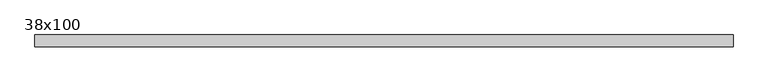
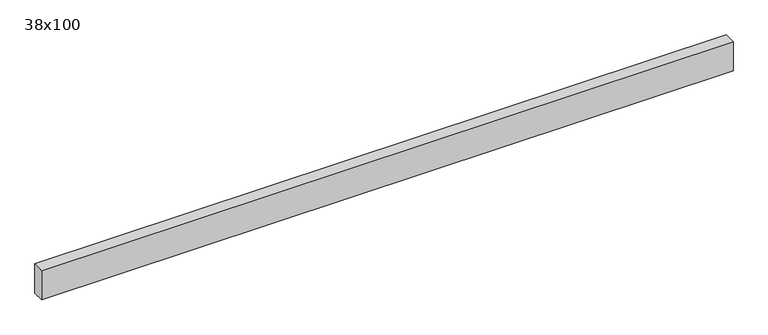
"""IFC4 building model written with IfcOpenShell, lengths in millimetres: beam geometry, Poutre - Bois de construction de dimensions courantes : 38x100."""

import ifcopenshell
import ifcopenshell.guid

model = None  # the IFC model being written
_history = None  # IfcOwnerHistory: only IFC2X3 demands one
_inside = {}  # id of a spatial element -> (the spatial element, [elements in it])
_under = {}  # id of a project, library or spatial element -> (it, [spatial elements below it])
_declared = {}  # id of a project -> (the project, [libraries it declares])
_typed = {}  # id of a type object -> (the type object, [elements of that type])
_made_of = {}  # id of a material, layer set ... -> (it, [elements and type objects made of it])


def new_model(schema):
    """Start an empty IFC model of exactly this schema.

    Asked for "IFC4X3", IfcOpenShell would pick the latest addendum, in which some entities
    have other attributes; the version numbers below select the first issue.
    IFC2X3 requires an IfcOwnerHistory on every rooted entity: one is made here for all.
    """
    global model, _history
    if schema == "IFC4X3":
        model = ifcopenshell.file(schema_version=(4, 3, 0, 0))
    else:
        model = ifcopenshell.file(schema=schema)
    _inside.clear()
    _under.clear()
    _declared.clear()
    _typed.clear()
    _made_of.clear()
    _history = None
    if model.schema == "IFC2X3":
        org = make("IfcOrganization", Name="unknown")
        user = make(
            "IfcPersonAndOrganization",
            ThePerson=make("IfcPerson", FamilyName="unknown"),
            TheOrganization=org,
        )
        app = make(
            "IfcApplication",
            ApplicationDeveloper=org,
            Version="unknown",
            ApplicationFullName="unknown",
            ApplicationIdentifier="unknown",
        )
        _history = make(
            "IfcOwnerHistory",
            OwningUser=user,
            OwningApplication=app,
            ChangeAction="ADDED",
            CreationDate=0,
        )
    return model


def make(cls, **values):
    """One entity of the class cls with the attributes given. An attribute that is None is left unset."""
    return model.create_entity(
        cls, **{name: value for name, value in values.items() if value is not None}
    )


def rooted(cls, **values):
    """An entity with a GlobalId (a new one), such as an element, a storey or a relation."""
    return make(cls, GlobalId=ifcopenshell.guid.new(), OwnerHistory=_history, **values)


def si_unit(unit_type, name, prefix=None):
    """IfcSIUnit, for example si_unit("LENGTHUNIT", "METRE", prefix="MILLI")."""
    return make("IfcSIUnit", UnitType=unit_type, Prefix=prefix, Name=name)


def assignment(units):
    """IfcUnitAssignment: the units of a project."""
    return None if units is None else make("IfcUnitAssignment", Units=units)


def point(xyz):
    """IfcCartesianPoint."""
    return None if xyz is None else make("IfcCartesianPoint", Coordinates=xyz)


def direction(xyz):
    """IfcDirection."""
    return None if xyz is None else make("IfcDirection", DirectionRatios=xyz)


def frame(location, z_axis=None, x_axis=None):
    """IfcAxis2Placement3D, a coordinate frame: its origin and axes. An axis left out is left unset."""
    return make(
        "IfcAxis2Placement3D",
        Location=point(location),
        Axis=direction(z_axis),
        RefDirection=direction(x_axis),
    )


def origin():
    """The frame at (0, 0, 0) with its axes left unset."""
    return frame((0.0, 0.0, 0.0))


def place(relative_to, where):
    """IfcLocalPlacement: puts the frame where relative to a parent placement (None: the world)."""
    return make(
        "IfcLocalPlacement", PlacementRelTo=relative_to, RelativePlacement=where
    )


def context(
    kind, dimensions, precision=None, world=None, true_north=None, identifier=None
):
    """IfcGeometricRepresentationContext, for example the 3D "Model" context."""
    return make(
        "IfcGeometricRepresentationContext",
        ContextIdentifier=identifier,
        ContextType=kind,
        CoordinateSpaceDimension=dimensions,
        Precision=precision,
        WorldCoordinateSystem=world,
        TrueNorth=true_north,
    )


def project(units=None, contexts=None):
    """IfcProject with its units and contexts."""
    return rooted(
        "IfcProject",
        Name="project",
        RepresentationContexts=contexts,
        UnitsInContext=assignment(units),
    )


def spatial(cls, under=None, at=None, **own):
    """A site, building, storey or space (cls), placed at a placement, below another one or the project."""
    s = rooted(cls, ObjectPlacement=at, **own)
    if under is not None:
        _under.setdefault(under.id(), (under, []))[1].append(s)
    return s


def polyline(points):
    """IfcPolyline through the points."""
    return make("IfcPolyline", Points=[point(p) for p in points])


def outline(outer, holes=None, kind="AREA"):
    """IfcArbitraryClosedProfileDef: a profile drawn as a closed curve; with holes, ...WithVoids."""
    if holes is None:
        return make("IfcArbitraryClosedProfileDef", ProfileType=kind, OuterCurve=outer)
    return make(
        "IfcArbitraryProfileDefWithVoids",
        ProfileType=kind,
        OuterCurve=outer,
        InnerCurves=holes,
    )


def extrude(swept, where, along, depth):
    """IfcExtrudedAreaSolid: the profile swept, set in the frame where, extruded along a direction by depth."""
    return make(
        "IfcExtrudedAreaSolid",
        SweptArea=swept,
        Position=where,
        ExtrudedDirection=direction(along),
        Depth=depth,
    )


def shape(context_of_items, identifier, shape_type, items):
    """IfcShapeRepresentation: the items that make up one representation, for example the "Body"."""
    return make(
        "IfcShapeRepresentation",
        ContextOfItems=context_of_items,
        RepresentationIdentifier=identifier,
        RepresentationType=shape_type,
        Items=items,
    )


def source(mapping_origin, context_of_items, identifier, shape_type, items):
    """IfcRepresentationMap: a shape defined once, which mapped items show again and again."""
    return make(
        "IfcRepresentationMap",
        MappingOrigin=mapping_origin,
        MappedRepresentation=shape(context_of_items, identifier, shape_type, items),
    )


def transform(
    local_origin,
    x_axis=None,
    y_axis=None,
    z_axis=None,
    scale=None,
    scale2=None,
    scale3=None,
    uniform=True,
):
    """IfcCartesianTransformationOperator3D, or its non-uniform kind. x_axis, y_axis, z_axis: its Axis1, 2, 3."""
    if uniform:
        return make(
            "IfcCartesianTransformationOperator3D",
            Axis1=direction(x_axis),
            Axis2=direction(y_axis),
            LocalOrigin=point(local_origin),
            Scale=scale,
            Axis3=direction(z_axis),
        )
    return make(
        "IfcCartesianTransformationOperator3DnonUniform",
        Axis1=direction(x_axis),
        Axis2=direction(y_axis),
        LocalOrigin=point(local_origin),
        Scale=scale,
        Axis3=direction(z_axis),
        Scale2=scale2,
        Scale3=scale3,
    )


def mapped(mapping_source, mapping_target):
    """IfcMappedItem: shows the shape of a source again, moved by a transform."""
    return make(
        "IfcMappedItem", MappingSource=mapping_source, MappingTarget=mapping_target
    )


def made_of(thing, what):
    """Note that an element or type object is made of a material, layer set ...; save() writes the relation."""
    if what is not None:
        _made_of.setdefault(what.id(), (what, []))[1].append(thing)
    return thing


def element(
    cls,
    number,
    at=None,
    inside=None,
    cuts=None,
    type_object=None,
    material=None,
    context=None,
    identifier="Body",
    shape_type=None,
    held_by="IfcProductDefinitionShape",
    body=None,
    shapes=None,
    **own,
):
    """One element of the class cls, such as IfcWall. Its Tag is "e" and its number.

    at: its placement. inside: the storey or other place that contains it. cuts: it is an
    opening in that element (IfcRelVoidsElement). A single representation is given by context,
    identifier, shape_type and body (its items); several are given by shapes. held_by: the class
    of the entity that holds the representations. save() writes the other relations.
    """
    e = rooted(cls, Tag="e%d" % number, ObjectPlacement=at, **own)
    if body is not None:
        shapes = [shape(context, identifier, shape_type, body)]
    if shapes is not None:
        e.Representation = make(held_by, Representations=shapes)
    if inside is not None:
        _inside.setdefault(inside.id(), (inside, []))[1].append(e)
    if cuts is not None:
        rooted(
            "IfcRelVoidsElement", RelatingBuildingElement=cuts, RelatedOpeningElement=e
        )
    if type_object is not None:
        _typed.setdefault(type_object.id(), (type_object, []))[1].append(e)
    return made_of(e, material)


def aggregate(whole, parts):
    """IfcRelAggregates: a whole, such as a stair, and the parts it consists of."""
    return rooted("IfcRelAggregates", RelatingObject=whole, RelatedObjects=parts)


def save(model, path):
    """Write the relations noted so far, then the file.

    IfcRelAggregates (storeys below a building ...), IfcRelContainedInSpatialStructure (elements
    in a storey), IfcRelDefinesByType, IfcRelAssociatesMaterial and IfcRelDeclares: one each for
    every whole, place, type object, material and project.
    """
    for whole, parts in _under.values():
        aggregate(whole, parts)
    for where, things in _inside.values():
        rooted(
            "IfcRelContainedInSpatialStructure",
            RelatedElements=things,
            RelatingStructure=where,
        )
    for kind, things in _typed.values():
        rooted("IfcRelDefinesByType", RelatedObjects=things, RelatingType=kind)
    for what, things in _made_of.values():
        rooted("IfcRelAssociatesMaterial", RelatedObjects=things, RelatingMaterial=what)
    for by, libraries in _declared.values():
        rooted("IfcRelDeclares", RelatingContext=by, RelatedDefinitions=libraries)
    model.write(path)


def beam_38x100_b674840d(model_context):
    return source(origin(), model_context, "Body", "SweptSolid", [
        extrude(outline(polyline([(1099.0, 19.05), (1099.0, -19.05), (-1135.0, -19.05), (-1135.0, 19.05), (1099.0, 19.05)])), frame((0.0, 0.0, -50.0), z_axis=(0.0, 0.0, 1.0), x_axis=(1.0, 0.0, 0.0)), (0.0, 0.0, 1.0), 100.0),
    ])


if __name__ == "__main__":
    model = new_model("IFC4")
    model_context = context("Model", 3, world=origin())
    ifc_project = project(units=[si_unit("LENGTHUNIT", "METRE", prefix="MILLI")], contexts=[model_context])
    site = spatial("IfcSite", under=ifc_project)
    building = spatial("IfcBuilding", under=site)
    placement = place(None, origin())
    beam_38x100_shape = beam_38x100_b674840d(model_context)
    element("IfcBeam", 1, ObjectType="Poutre - Bois de construction de dimensions courantes : 38x100", at=placement, inside=building, context=model_context, shape_type="MappedRepresentation", body=[
        mapped(beam_38x100_shape, transform((0.0, 0.0, 0.0), x_axis=(1.0, 0.0, 0.0), y_axis=(0.0, 1.0, 0.0), z_axis=(0.0, 0.0, 1.0))),
    ])
    save(model, "model.ifc")
